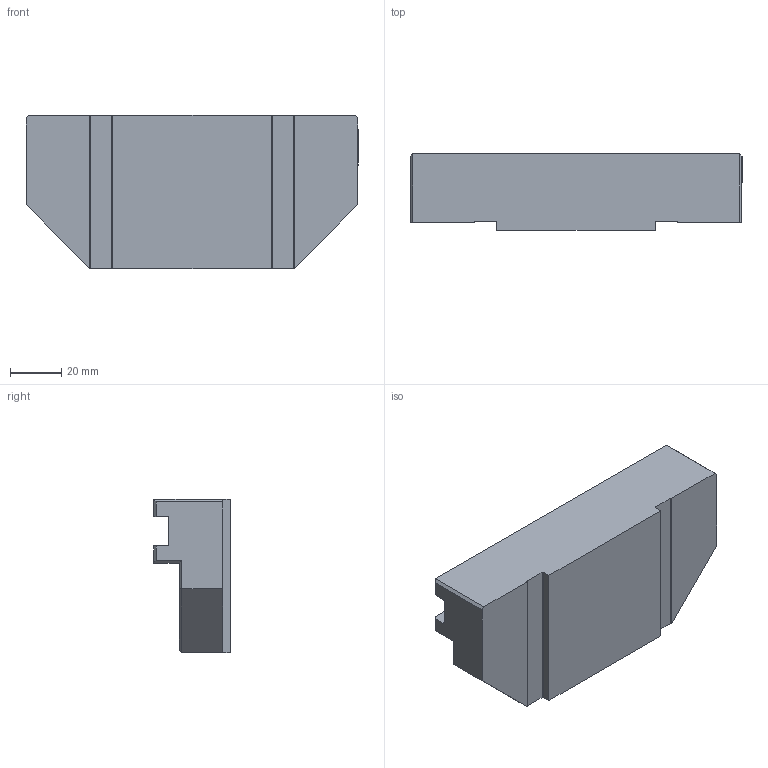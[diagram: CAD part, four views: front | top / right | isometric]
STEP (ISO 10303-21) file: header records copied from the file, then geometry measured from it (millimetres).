
FILE_DESCRIPTION (( 'STEP AP203' ), '1' );
FILE_NAME ('05-0504.STEP', '2021-07-19T17:20:10', ( '' ), ( '' ), 'SwSTEP 2.0', 'SolidWorks 2020', '' );
FILE_SCHEMA (( 'CONFIG_CONTROL_DESIGN' ));
Length unit declared in the file: inch
Products named in the file (1): 05-0504
Bounding box: 130 x 30 x 60 mm (x, y, z)
Volume: 155014.3 mm3; surface area: 26909.3 mm2
Topology: 1 solids, 3 shells, 85 faces, 207 edges, 119 vertices
Faces by surface type: plane 39, cylinder 28, cone 18
Entity records: 2402 total; most frequent: DIRECTION 409, CARTESIAN_POINT 406, ORIENTED_EDGE 378, EDGE_CURVE 189, AXIS2_PLACEMENT_3D 138, VECTOR 133, LINE 133, VERTEX_POINT 119
